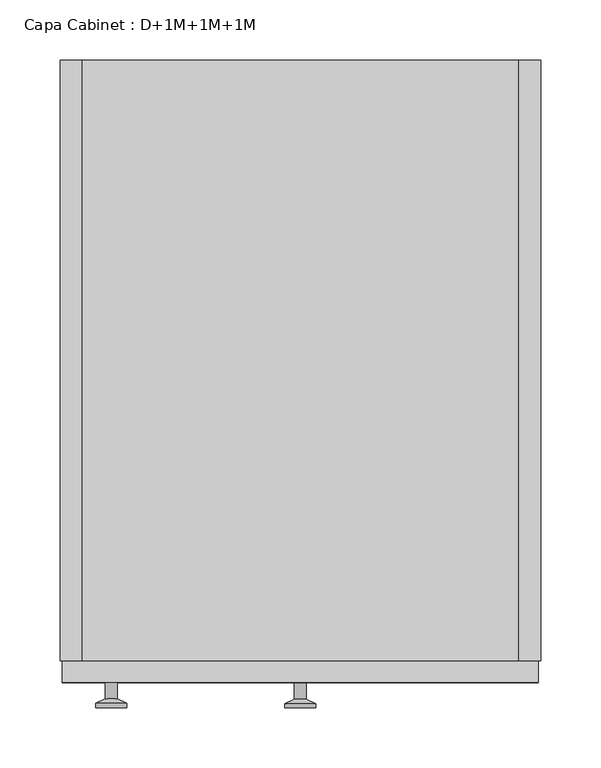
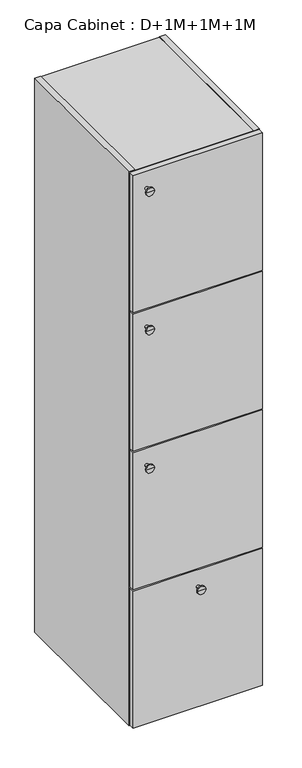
"""IFC4 building model written with IfcOpenShell, lengths in millimetres: furniture geometry, Capa Cabinet : D+1M+1M+1M."""

from ifc_helpers import new_model, si_unit, frame, origin, place, context, project, spatial, polyline, circle_curve, outline, extrude, faceted_brep, source, transform, mapped, element, save
from ifc_brep_helpers import plane_surface, cylinder_surface, revolved_surface, advanced_brep


def capa_cabinet_d_1m_1m_1m_5274b2c8(model_context):
    return source(origin(), model_context, "Body", "SolidModel", [
        extrude(outline(polyline([(182.0, 0.0), (-182.0, 0.0), (-182.0, 490.0), (182.0, 490.0), (182.0, 0.0)])), frame((0.0, 0.0, 1337.0), z_axis=(0.0, 0.0, 1.0), x_axis=(1.0, 0.0, 0.0)), (0.0, 0.0, 1.0), 14.0),
        extrude(outline(polyline([(182.0, 0.0), (-182.0, 0.0), (-182.0, 490.0), (182.0, 490.0), (182.0, 0.0)])), frame((0.0, 0.0, 889.0), z_axis=(0.0, 0.0, 1.0), x_axis=(1.0, 0.0, 0.0)), (0.0, 0.0, 1.0), 14.0),
        extrude(outline(polyline([(182.0, 0.0), (-182.0, 0.0), (-182.0, 490.0), (182.0, 490.0), (182.0, 0.0)])), frame((0.0, 0.0, 441.0), z_axis=(0.0, 0.0, 1.0), x_axis=(1.0, 0.0, 0.0)), (0.0, 0.0, 1.0), 14.0),
        faceted_brep([(-182.0, 500.0, 1792.0), (-182.0, 500.0, 1791.0), (182.0, 500.0, 1791.0), (182.0, 500.0, 1792.0), (200.0, 500.0, 1792.0), (200.0, 500.0, 0.0), (182.0, 500.0, 0.0), (182.0, 500.0, 1.0), (-182.0, 500.0, 1.0), (-182.0, 500.0, 0.0), (-200.0, 500.0, 0.0), (-200.0, 500.0, 1792.0), (182.0, 490.0, 19.0), (182.0, 490.0, 1773.0), (-182.0, 490.0, 1773.0), (-182.0, 490.0, 19.0), (-182.0, 0.0, 1792.0), (-200.0, 0.0, 1792.0), (-200.0, 0.0, 0.0), (-182.0, 0.0, 0.0), (-182.0, 0.0, 1.0), (182.0, 0.0, 1.0), (182.0, 0.0, 0.0), (200.0, 0.0, 0.0), (200.0, 0.0, 1792.0), (182.0, 0.0, 1792.0), (182.0, 0.0, 1791.0), (-182.0, 0.0, 1791.0), (182.0, 0.0, 1773.0), (182.0, 0.0, 19.0), (-182.0, 0.0, 19.0), (-182.0, 0.0, 1773.0)], [[[0, 1, 2, 3, 4, 5, 6, 7, 8, 9, 10, 11]], [[12, 13, 14, 15]], [[16, 17, 18, 19, 20, 21, 22, 23, 24, 25, 26, 27], [28, 29, 30, 31]], [[17, 16, 0, 11]], [[18, 17, 11, 10]], [[23, 22, 6, 5]], [[24, 23, 5, 4]], [[19, 18, 10, 9]], [[20, 19, 9, 8]], [[21, 20, 8, 7]], [[22, 21, 7, 6]], [[25, 24, 4, 3]], [[26, 25, 3, 2]], [[27, 26, 2, 1]], [[16, 27, 1, 0]], [[29, 28, 13, 12]], [[30, 29, 12, 15]], [[31, 30, 15, 14]], [[28, 31, 14, 13]]]),
        extrude(outline(polyline([(198.0, -18.0), (-198.0, -18.0), (-198.0, 0.0), (198.0, 0.0), (198.0, -18.0)])), frame((0.0, 0.0, 2.0), z_axis=(0.0, 0.0, 1.0), x_axis=(1.0, 0.0, 0.0)), (0.0, 0.0, 1.0), 444.0),
        advanced_brep(
        [(0.0, -18.0, 392.0), (5.0, -18.0, 392.0), (-5.0, -18.0, 392.0), (-13.0, -38.997134, 392.0), (13.0, -38.997134, 392.0), (0.0, -38.997134, 392.0), (-13.0, -35.5419417, 392.0), (13.0, -35.5419417, 392.0), (-5.0, -31.8114804, 392.0), (5.0, -31.8114804, 392.0)],
        [
            (0, 1),
            (1, 2, circle_curve(frame((0.0, -18.0, 392.0), z_axis=(0.0, 1.0, 0.0), x_axis=(1.0, 0.0, 0.0)), 5.0)),
            (2, 0),
            (2, 1, circle_curve(frame((0.0, -18.0, 392.0), z_axis=(0.0, 1.0, 0.0), x_axis=(1.0, 0.0, 0.0)), 5.0)),
            (3, 4, circle_curve(frame((0.0, -38.997134, 392.0), z_axis=(0.0, -1.0, 0.0), x_axis=(1.0, 0.0, 0.0)), 13.0)),
            (4, 5),
            (5, 3),
            (4, 3, circle_curve(frame((0.0, -38.997134, 392.0), z_axis=(0.0, -1.0, 0.0), x_axis=(1.0, 0.0, 0.0)), 13.0)),
            (6, 7, circle_curve(frame((0.0, -35.5419417, 392.0), z_axis=(0.0, -1.0, 0.0), x_axis=(1.0, 0.0, 0.0)), 13.0)),
            (7, 4),
            (3, 6),
            (7, 6, circle_curve(frame((0.0, -35.5419417, 392.0), z_axis=(0.0, -1.0, 0.0), x_axis=(1.0, 0.0, 0.0)), 13.0)),
            (8, 9, circle_curve(frame((0.0, -31.8114804, 392.0), z_axis=(0.0, -1.0, 0.0), x_axis=(1.0, 0.0, 0.0)), 5.0)),
            (9, 7),
            (6, 8),
            (9, 8, circle_curve(frame((0.0, -31.8114804, 392.0), z_axis=(0.0, -1.0, 0.0), x_axis=(1.0, 0.0, 0.0)), 5.0)),
            (1, 9),
            (8, 2),
        ],
        [
            plane_surface(frame((0.0, -18.0, 392.0), z_axis=(0.0, 1.0, 0.0), x_axis=(1.0, 0.0, 0.0))),
            plane_surface(frame((0.0, -38.997134, 392.0), z_axis=(0.0, -1.0, 0.0), x_axis=(1.0, 0.0, 0.0))),
            cylinder_surface(frame((0.0, -38.997134, 392.0), z_axis=(0.0, 1.0, 0.0), x_axis=(1.0, 0.0, 0.0)), 13.0),
            revolved_surface(polyline([(13.0, -35.5419417, 392.0), (5.0, -31.8114804, 392.0)]), (0.0, -38.997134, 392.0), (0.0, 1.0, 0.0)),
            cylinder_surface(frame((0.0, -38.997134, 392.0), z_axis=(0.0, 1.0, 0.0), x_axis=(1.0, 0.0, 0.0)), 5.0),
        ],
        [
            (0, [[1, 2, 3]]),
            (0, [[-3, 4, -1]]),
            (1, [[5, 6, 7]]),
            (1, [[8, -7, -6]]),
            (2, [[9, 10, -5, 11]]),
            (2, [[12, -11, -8, -10]]),
            (3, [[13, 14, -9, 15]]),
            (3, [[16, -15, -12, -14]]),
            (4, [[-2, 17, -13, 18]]),
            (4, [[-4, -18, -16, -17]]),
        ],
    ),
        extrude(outline(polyline([(198.0, -18.0), (-198.0, -18.0), (-198.0, 0.0), (198.0, 0.0), (198.0, -18.0)])), frame((0.0, 0.0, 1346.0), z_axis=(0.0, 0.0, 1.0), x_axis=(1.0, 0.0, 0.0)), (0.0, 0.0, 1.0), 444.0),
        advanced_brep(
        [(-157.2922597, -18.0, 1736.0), (-152.2922597, -18.0, 1736.0), (-162.2922597, -18.0, 1736.0), (-170.2922597, -38.997134, 1736.0), (-144.2922597, -38.997134, 1736.0), (-157.2922597, -38.997134, 1736.0), (-170.2922597, -35.5419417, 1736.0), (-144.2922597, -35.5419417, 1736.0), (-162.2922597, -31.8114804, 1736.0), (-152.2922597, -31.8114804, 1736.0)],
        [
            (0, 1),
            (1, 2, circle_curve(frame((-157.2922597, -18.0, 1736.0), z_axis=(0.0, 1.0, 0.0), x_axis=(1.0, 0.0, 0.0)), 5.0)),
            (2, 0),
            (2, 1, circle_curve(frame((-157.2922597, -18.0, 1736.0), z_axis=(0.0, 1.0, 0.0), x_axis=(1.0, 0.0, 0.0)), 5.0)),
            (3, 4, circle_curve(frame((-157.2922597, -38.997134, 1736.0), z_axis=(0.0, -1.0, 0.0), x_axis=(1.0, 0.0, 0.0)), 13.0)),
            (4, 5),
            (5, 3),
            (4, 3, circle_curve(frame((-157.2922597, -38.997134, 1736.0), z_axis=(0.0, -1.0, 0.0), x_axis=(1.0, 0.0, 0.0)), 13.0)),
            (6, 7, circle_curve(frame((-157.2922597, -35.5419417, 1736.0), z_axis=(0.0, -1.0, 0.0), x_axis=(1.0, 0.0, 0.0)), 13.0)),
            (7, 4),
            (3, 6),
            (7, 6, circle_curve(frame((-157.2922597, -35.5419417, 1736.0), z_axis=(0.0, -1.0, 0.0), x_axis=(1.0, 0.0, 0.0)), 13.0)),
            (8, 9, circle_curve(frame((-157.2922597, -31.8114804, 1736.0), z_axis=(0.0, -1.0, 0.0), x_axis=(1.0, 0.0, 0.0)), 5.0)),
            (9, 7),
            (6, 8),
            (9, 8, circle_curve(frame((-157.2922597, -31.8114804, 1736.0), z_axis=(0.0, -1.0, 0.0), x_axis=(1.0, 0.0, 0.0)), 5.0)),
            (1, 9),
            (8, 2),
        ],
        [
            plane_surface(frame((-157.2922597, -18.0, 1736.0), z_axis=(0.0, 1.0, 0.0), x_axis=(1.0, 0.0, 0.0))),
            plane_surface(frame((-157.2922597, -38.997134, 1736.0), z_axis=(0.0, -1.0, 0.0), x_axis=(1.0, 0.0, 0.0))),
            cylinder_surface(frame((-157.2922597, -38.997134, 1736.0), z_axis=(0.0, 1.0, 0.0), x_axis=(1.0, 0.0, 0.0)), 13.0),
            revolved_surface(polyline([(-144.2922597, -35.5419417, 1736.0), (-152.2922597, -31.8114804, 1736.0)]), (-157.2922597, -38.997134, 1736.0), (0.0, 1.0, 0.0)),
            cylinder_surface(frame((-157.2922597, -38.997134, 1736.0), z_axis=(0.0, 1.0, 0.0), x_axis=(1.0, 0.0, 0.0)), 5.0),
        ],
        [
            (0, [[1, 2, 3]]),
            (0, [[-3, 4, -1]]),
            (1, [[5, 6, 7]]),
            (1, [[8, -7, -6]]),
            (2, [[9, 10, -5, 11]]),
            (2, [[12, -11, -8, -10]]),
            (3, [[13, 14, -9, 15]]),
            (3, [[16, -15, -12, -14]]),
            (4, [[-2, 17, -13, 18]]),
            (4, [[-4, -18, -16, -17]]),
        ],
    ),
        extrude(outline(polyline([(198.0, -18.0), (-198.0, -18.0), (-198.0, 0.0), (198.0, 0.0), (198.0, -18.0)])), frame((0.0, 0.0, 898.0), z_axis=(0.0, 0.0, 1.0), x_axis=(1.0, 0.0, 0.0)), (0.0, 0.0, 1.0), 444.0),
        advanced_brep(
        [(-157.2922597, -18.0, 1288.0), (-152.2922597, -18.0, 1288.0), (-162.2922597, -18.0, 1288.0), (-170.2922597, -38.997134, 1288.0), (-144.2922597, -38.997134, 1288.0), (-157.2922597, -38.997134, 1288.0), (-170.2922597, -35.5419417, 1288.0), (-144.2922597, -35.5419417, 1288.0), (-162.2922597, -31.8114804, 1288.0), (-152.2922597, -31.8114804, 1288.0)],
        [
            (0, 1),
            (1, 2, circle_curve(frame((-157.2922597, -18.0, 1288.0), z_axis=(0.0, 1.0, 0.0), x_axis=(1.0, 0.0, 0.0)), 5.0)),
            (2, 0),
            (2, 1, circle_curve(frame((-157.2922597, -18.0, 1288.0), z_axis=(0.0, 1.0, 0.0), x_axis=(1.0, 0.0, 0.0)), 5.0)),
            (3, 4, circle_curve(frame((-157.2922597, -38.997134, 1288.0), z_axis=(0.0, -1.0, 0.0), x_axis=(1.0, 0.0, 0.0)), 13.0)),
            (4, 5),
            (5, 3),
            (4, 3, circle_curve(frame((-157.2922597, -38.997134, 1288.0), z_axis=(0.0, -1.0, 0.0), x_axis=(1.0, 0.0, 0.0)), 13.0)),
            (6, 7, circle_curve(frame((-157.2922597, -35.5419417, 1288.0), z_axis=(0.0, -1.0, 0.0), x_axis=(1.0, 0.0, 0.0)), 13.0)),
            (7, 4),
            (3, 6),
            (7, 6, circle_curve(frame((-157.2922597, -35.5419417, 1288.0), z_axis=(0.0, -1.0, 0.0), x_axis=(1.0, 0.0, 0.0)), 13.0)),
            (8, 9, circle_curve(frame((-157.2922597, -31.8114804, 1288.0), z_axis=(0.0, -1.0, 0.0), x_axis=(1.0, 0.0, 0.0)), 5.0)),
            (9, 7),
            (6, 8),
            (9, 8, circle_curve(frame((-157.2922597, -31.8114804, 1288.0), z_axis=(0.0, -1.0, 0.0), x_axis=(1.0, 0.0, 0.0)), 5.0)),
            (1, 9),
            (8, 2),
        ],
        [
            plane_surface(frame((-157.2922597, -18.0, 1288.0), z_axis=(0.0, 1.0, 0.0), x_axis=(1.0, 0.0, 0.0))),
            plane_surface(frame((-157.2922597, -38.997134, 1288.0), z_axis=(0.0, -1.0, 0.0), x_axis=(1.0, 0.0, 0.0))),
            cylinder_surface(frame((-157.2922597, -38.997134, 1288.0), z_axis=(0.0, 1.0, 0.0), x_axis=(1.0, 0.0, 0.0)), 13.0),
            revolved_surface(polyline([(-144.2922597, -35.5419417, 1288.0), (-152.2922597, -31.8114804, 1288.0)]), (-157.2922597, -38.997134, 1288.0), (0.0, 1.0, 0.0)),
            cylinder_surface(frame((-157.2922597, -38.997134, 1288.0), z_axis=(0.0, 1.0, 0.0), x_axis=(1.0, 0.0, 0.0)), 5.0),
        ],
        [
            (0, [[1, 2, 3]]),
            (0, [[-3, 4, -1]]),
            (1, [[5, 6, 7]]),
            (1, [[8, -7, -6]]),
            (2, [[9, 10, -5, 11]]),
            (2, [[12, -11, -8, -10]]),
            (3, [[13, 14, -9, 15]]),
            (3, [[16, -15, -12, -14]]),
            (4, [[-2, 17, -13, 18]]),
            (4, [[-4, -18, -16, -17]]),
        ],
    ),
        extrude(outline(polyline([(198.0, -18.0), (-198.0, -18.0), (-198.0, 0.0), (198.0, 0.0), (198.0, -18.0)])), frame((0.0, 0.0, 450.0), z_axis=(0.0, 0.0, 1.0), x_axis=(1.0, 0.0, 0.0)), (0.0, 0.0, 1.0), 444.0),
        advanced_brep(
        [(-157.2922597, -18.0, 840.0), (-152.2922597, -18.0, 840.0), (-162.2922597, -18.0, 840.0), (-170.2922597, -38.997134, 840.0), (-144.2922597, -38.997134, 840.0), (-157.2922597, -38.997134, 840.0), (-170.2922597, -35.5419417, 840.0), (-144.2922597, -35.5419417, 840.0), (-162.2922597, -31.8114804, 840.0), (-152.2922597, -31.8114804, 840.0)],
        [
            (0, 1),
            (1, 2, circle_curve(frame((-157.2922597, -18.0, 840.0), z_axis=(0.0, 1.0, 0.0), x_axis=(1.0, 0.0, 0.0)), 5.0)),
            (2, 0),
            (2, 1, circle_curve(frame((-157.2922597, -18.0, 840.0), z_axis=(0.0, 1.0, 0.0), x_axis=(1.0, 0.0, 0.0)), 5.0)),
            (3, 4, circle_curve(frame((-157.2922597, -38.997134, 840.0), z_axis=(0.0, -1.0, 0.0), x_axis=(1.0, 0.0, 0.0)), 13.0)),
            (4, 5),
            (5, 3),
            (4, 3, circle_curve(frame((-157.2922597, -38.997134, 840.0), z_axis=(0.0, -1.0, 0.0), x_axis=(1.0, 0.0, 0.0)), 13.0)),
            (6, 7, circle_curve(frame((-157.2922597, -35.5419417, 840.0), z_axis=(0.0, -1.0, 0.0), x_axis=(1.0, 0.0, 0.0)), 13.0)),
            (7, 4),
            (3, 6),
            (7, 6, circle_curve(frame((-157.2922597, -35.5419417, 840.0), z_axis=(0.0, -1.0, 0.0), x_axis=(1.0, 0.0, 0.0)), 13.0)),
            (8, 9, circle_curve(frame((-157.2922597, -31.8114804, 840.0), z_axis=(0.0, -1.0, 0.0), x_axis=(1.0, 0.0, 0.0)), 5.0)),
            (9, 7),
            (6, 8),
            (9, 8, circle_curve(frame((-157.2922597, -31.8114804, 840.0), z_axis=(0.0, -1.0, 0.0), x_axis=(1.0, 0.0, 0.0)), 5.0)),
            (1, 9),
            (8, 2),
        ],
        [
            plane_surface(frame((-157.2922597, -18.0, 840.0), z_axis=(0.0, 1.0, 0.0), x_axis=(1.0, 0.0, 0.0))),
            plane_surface(frame((-157.2922597, -38.997134, 840.0), z_axis=(0.0, -1.0, 0.0), x_axis=(1.0, 0.0, 0.0))),
            cylinder_surface(frame((-157.2922597, -38.997134, 840.0), z_axis=(0.0, 1.0, 0.0), x_axis=(1.0, 0.0, 0.0)), 13.0),
            revolved_surface(polyline([(-144.2922597, -35.5419417, 840.0), (-152.2922597, -31.8114804, 840.0)]), (-157.2922597, -38.997134, 840.0), (0.0, 1.0, 0.0)),
            cylinder_surface(frame((-157.2922597, -38.997134, 840.0), z_axis=(0.0, 1.0, 0.0), x_axis=(1.0, 0.0, 0.0)), 5.0),
        ],
        [
            (0, [[1, 2, 3]]),
            (0, [[-3, 4, -1]]),
            (1, [[5, 6, 7]]),
            (1, [[8, -7, -6]]),
            (2, [[9, 10, -5, 11]]),
            (2, [[12, -11, -8, -10]]),
            (3, [[13, 14, -9, 15]]),
            (3, [[16, -15, -12, -14]]),
            (4, [[-2, 17, -13, 18]]),
            (4, [[-4, -18, -16, -17]]),
        ],
    ),
    ])


if __name__ == "__main__":
    model = new_model("IFC4")
    model_context = context("Model", 3, world=origin())
    ifc_project = project(units=[si_unit("LENGTHUNIT", "METRE", prefix="MILLI")], contexts=[model_context])
    site = spatial("IfcSite", under=ifc_project)
    building = spatial("IfcBuilding", under=site)
    placement = place(None, origin())
    capa_cabinet_d_1m_1m_1m_shape = capa_cabinet_d_1m_1m_1m_5274b2c8(model_context)
    element("IfcFurniture", 1, ObjectType="Capa Cabinet : D+1M+1M+1M", at=placement, inside=building, context=model_context, shape_type="MappedRepresentation", body=[
        mapped(capa_cabinet_d_1m_1m_1m_shape, transform((0.0, 0.0, 0.0), x_axis=(1.0, 0.0, 0.0), y_axis=(0.0, 1.0, 0.0), z_axis=(0.0, 0.0, 1.0))),
    ])
    save(model, "model.ifc")
